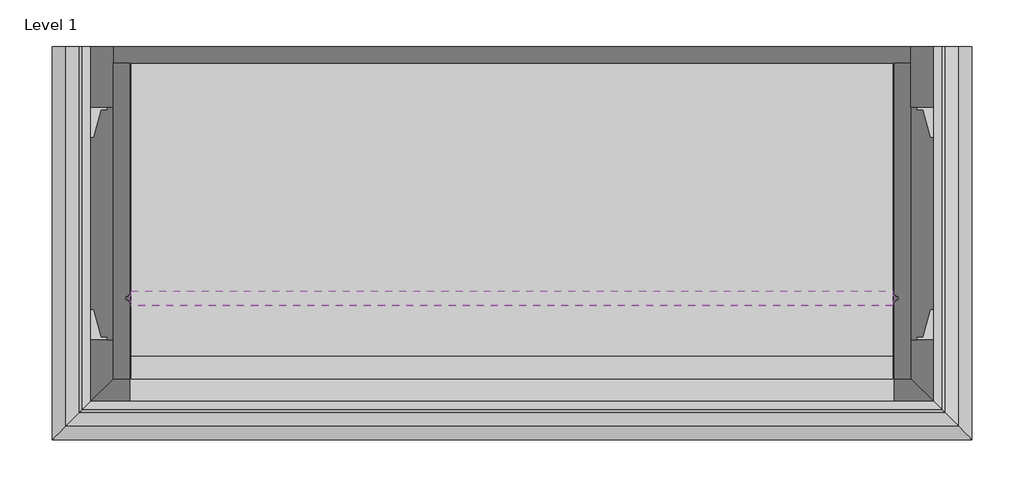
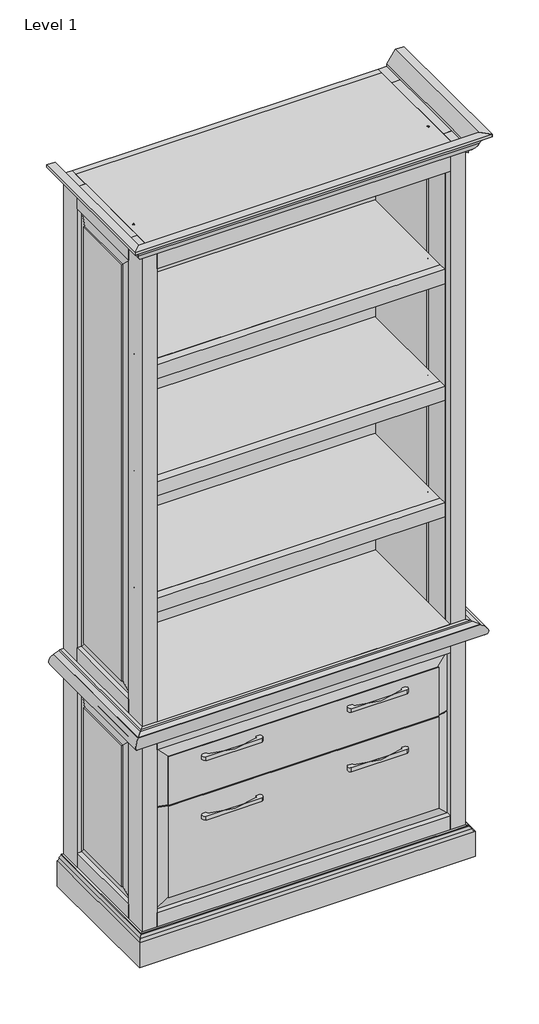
# One storey: 10 proxies.
"""IFC4 building model written with IfcOpenShell, lengths in millimetres."""

from ifc_helpers import new_model, si_unit, origin, place, context, project, spatial, transform, mapped, element, save
from components import generic_models_d0b22e00, generic_models_5fe2147b, generic_models_7eb4e70c, generic_models_470a9173

model = new_model("IFC4")

# Units and contexts
model_context = context("Model", 3, world=origin())
ifc_project = project(units=[si_unit("LENGTHUNIT", "METRE", prefix="MILLI")], contexts=[model_context])

# Site, building, storey
site = spatial("IfcSite", under=ifc_project)
building = spatial("IfcBuilding", under=site)
storey = spatial("IfcBuildingStorey", under=building, Name="Level 1", Elevation=0.0)

# Proxies
placement = place(None, origin())
generic_models_shape = generic_models_d0b22e00(model_context)
element("IfcBuildingElementProxy", 1, Name="HAFELE^BUS BAR LIGHT_ALUMINUM EXTRUSION-LIGHT BAR (MOD LENGTH 34.375)", ObjectType="HAFELE^BUS BAR LIGHT_ALUMINUM EXTRUSION-LIGHT BAR (MOD LENGTH 34.375)", at=placement, inside=storey, context=model_context, shape_type="MappedRepresentation", body=[
    mapped(generic_models_shape, transform((46.0375, -280.425, 1454.15), x_axis=(0.0, -1.0, 0.0), y_axis=(1.0, 0.0, 0.0), z_axis=(0.0, 0.0, 1.0))),
])
element("IfcBuildingElementProxy", 2, Name="HAFELE^BUS BAR LIGHT_ALUMINUM EXTRUSION-LIGHT BAR (MOD LENGTH 34.375)", ObjectType="HAFELE^BUS BAR LIGHT_ALUMINUM EXTRUSION-LIGHT BAR (MOD LENGTH 34.375)", at=placement, inside=storey, context=model_context, shape_type="MappedRepresentation", body=[
    mapped(generic_models_shape, transform((46.0375, -280.425, 1822.45), x_axis=(0.0, -1.0, 0.0), y_axis=(1.0, 0.0, 0.0), z_axis=(0.0, 0.0, 1.0))),
])
element("IfcBuildingElementProxy", 3, Name="HAFELE^BUS BAR LIGHT_ALUMINUM EXTRUSION-LIGHT BAR (MOD LENGTH 34.375)", ObjectType="HAFELE^BUS BAR LIGHT_ALUMINUM EXTRUSION-LIGHT BAR (MOD LENGTH 34.375)", at=placement, inside=storey, context=model_context, shape_type="MappedRepresentation", body=[
    mapped(generic_models_shape, transform((46.0375, -280.425, 1085.85), x_axis=(0.0, -1.0, 0.0), y_axis=(1.0, 0.0, 0.0), z_axis=(0.0, 0.0, 1.0))),
])
generic_models_2_shape = generic_models_5fe2147b(model_context)
element("IfcBuildingElementProxy", 4, Name="ART DECCO^GLAM-HAFELE 110_34_286", ObjectType="ART DECCO^GLAM-HAFELE 110_34_286", at=placement, inside=storey, context=model_context, shape_type="MappedRepresentation", body=[
    mapped(generic_models_2_shape, transform((610.0875, -406.4, 406.05), x_axis=(1.0, 0.0, 0.0), y_axis=(0.0, 0.0, -1.0), z_axis=(0.0, 1.0, 0.0))),
])
element("IfcBuildingElementProxy", 5, Name="ART DECCO^GLAM-HAFELE 110_34_286", ObjectType="ART DECCO^GLAM-HAFELE 110_34_286", at=placement, inside=storey, context=model_context, shape_type="MappedRepresentation", body=[
    mapped(generic_models_2_shape, transform((175.1125, -406.4, 593.375), x_axis=(1.0, 0.0, 0.0), y_axis=(0.0, 0.0, -1.0), z_axis=(0.0, 1.0, 0.0))),
])
element("IfcBuildingElementProxy", 6, Name="ART DECCO^GLAM-HAFELE 110_34_286", ObjectType="ART DECCO^GLAM-HAFELE 110_34_286", at=placement, inside=storey, context=model_context, shape_type="MappedRepresentation", body=[
    mapped(generic_models_2_shape, transform((175.1125, -406.4, 406.05), x_axis=(1.0, 0.0, 0.0), y_axis=(0.0, 0.0, -1.0), z_axis=(0.0, 1.0, 0.0))),
])
element("IfcBuildingElementProxy", 7, Name="ART DECCO^GLAM-HAFELE 110_34_286", ObjectType="ART DECCO^GLAM-HAFELE 110_34_286", at=placement, inside=storey, context=model_context, shape_type="MappedRepresentation", body=[
    mapped(generic_models_2_shape, transform((610.0875, -406.4, 593.375), x_axis=(1.0, 0.0, 0.0), y_axis=(0.0, 0.0, -1.0), z_axis=(0.0, 1.0, 0.0))),
])
generic_models_3_shape = generic_models_7eb4e70c(model_context)
element("IfcBuildingElementProxy", 8, Name="HAFELE^BUS BAR_ALUMINUM-BUS BAR (MOD LENGTH 59)", ObjectType="HAFELE^BUS BAR_ALUMINUM-BUS BAR (MOD LENGTH 59)", at=placement, inside=storey, context=model_context, shape_type="MappedRepresentation", body=[
    mapped(generic_models_3_shape, transform((44.45, -285.75, 742.95), x_axis=(0.0, -1.0, 0.0), y_axis=(0.0, 0.0, 1.0), z_axis=(-1.0, 0.0, 0.0))),
])
element("IfcBuildingElementProxy", 9, Name="HAFELE^BUS BAR_ALUMINUM-BUS BAR (MOD LENGTH 59)", ObjectType="HAFELE^BUS BAR_ALUMINUM-BUS BAR (MOD LENGTH 59)", at=placement, inside=storey, context=model_context, shape_type="MappedRepresentation", body=[
    mapped(generic_models_3_shape, transform((920.75, -292.1, 742.95), x_axis=(0.0, 1.0, 0.0), y_axis=(0.0, 0.0, 1.0), z_axis=(1.0, 0.0, 0.0))),
])
generic_models_4_shape = generic_models_470a9173(model_context)
element("IfcBuildingElementProxy", 10, Name="CAMBRIDGE^STORAGE 2_2 DRAWERS 3 SHELVES-PARTS SOLID", ObjectType="CAMBRIDGE^STORAGE 2_2 DRAWERS 3 SHELVES-PARTS SOLID", at=placement, inside=storey, context=model_context, shape_type="MappedRepresentation", body=[
    mapped(generic_models_4_shape, transform((25.4, 0.0, 0.0), x_axis=(1.0, 0.0, 0.0), y_axis=(0.0, 0.0, 1.0), z_axis=(0.0, -1.0, 0.0))),
])

save(model, "model.ifc")
